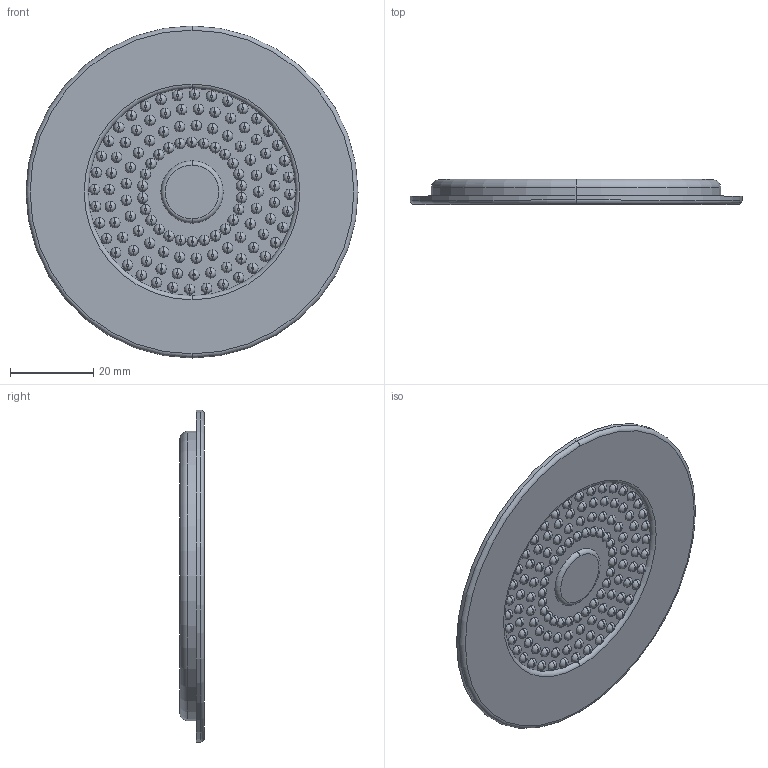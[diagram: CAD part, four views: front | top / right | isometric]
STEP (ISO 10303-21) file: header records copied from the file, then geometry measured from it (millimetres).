
FILE_DESCRIPTION (( 'STEP AP214' ), '1' );
FILE_NAME ('GOMAAV080.STEP', '2024-01-24T16:02:53', ( '' ), ( '' ), 'SwSTEP 2.0', 'SolidWorks 2022', '' );
FILE_SCHEMA (( 'AUTOMOTIVE_DESIGN' ));
Length unit declared in the file: millimetre
Products named in the file (1): GOMAAV080
Bounding box: 80 x 6 x 80 mm (x, y, z)
Volume: 22265.2 mm3; surface area: 12089.6 mm2
Topology: 1 solids, 1 shells, 384 faces, 766 edges, 508 vertices
Faces by surface type: torus 248, plane 126, cylinder 10
Entity records: 10496 total; most frequent: DIRECTION 2292, CARTESIAN_POINT 1659, ORIENTED_EDGE 1532, AXIS2_PLACEMENT_3D 1141, EDGE_CURVE 766, CIRCLE 756, VERTEX_POINT 508, EDGE_LOOP 508
